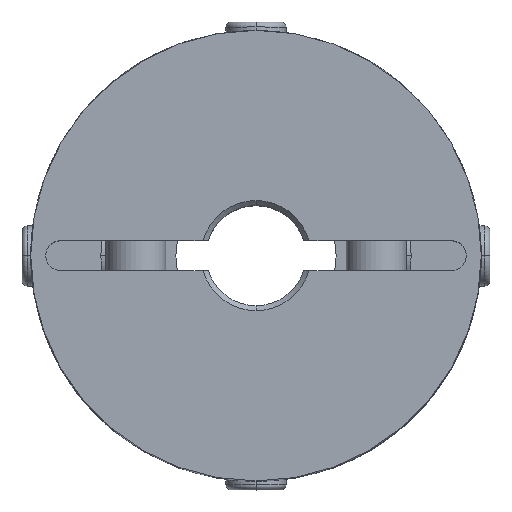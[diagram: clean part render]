
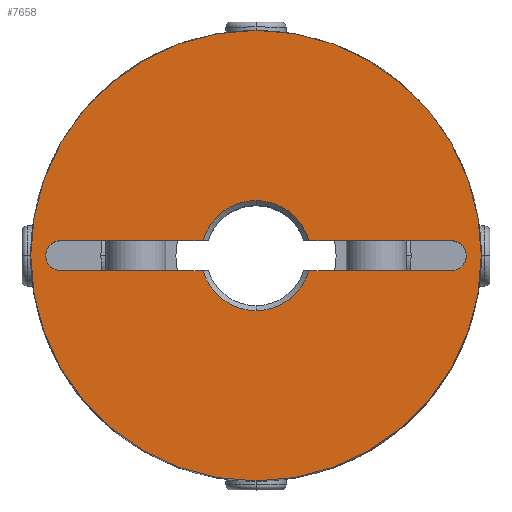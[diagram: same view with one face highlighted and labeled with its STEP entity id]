
A CAD part, top view. The second image highlights one B-rep face of the part: STEP entity #7658.
In plain terms, the highlighted planar face has unit normal (0, 0, 1).
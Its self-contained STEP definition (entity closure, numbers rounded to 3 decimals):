
#979=CARTESIAN_POINT('',(0.,22.5,22.5));
#980=VERTEX_POINT('',#979);
#987=CARTESIAN_POINT('',(0.,-22.5,22.5));
#988=VERTEX_POINT('',#987);
#989=CARTESIAN_POINT('',(0.0,0.0,22.5));
#990=DIRECTION('',(0.0,0.0,-1.0));
#991=DIRECTION('',(0.0,-1.0,0.0));
#992=AXIS2_PLACEMENT_3D('',#989,#990,#991);
#993=CIRCLE('',#992,22.5);
#994=EDGE_CURVE('',#980,#988,#993,.T.);
#1309=CARTESIAN_POINT('',(20.561,1.061,22.5));
#1310=VERTEX_POINT('',#1309);
#1326=CARTESIAN_POINT('',(19.5,-1.5,22.5));
#1327=VERTEX_POINT('',#1326);
#1334=CARTESIAN_POINT('',(19.5,0.,22.5));
#1335=DIRECTION('',(0.0,0.0,1.0));
#1336=DIRECTION('',(0.707,-0.707,0.0));
#1337=AXIS2_PLACEMENT_3D('',#1334,#1335,#1336);
#1338=CIRCLE('',#1337,1.5);
#1339=EDGE_CURVE('',#1327,#1310,#1338,.T.);
#1351=CARTESIAN_POINT('',(-20.561,-1.061,22.5));
#1352=VERTEX_POINT('',#1351);
#1368=CARTESIAN_POINT('',(-19.5,1.5,22.5));
#1369=VERTEX_POINT('',#1368);
#1376=CARTESIAN_POINT('',(-19.5,0.,22.5));
#1377=DIRECTION('',(0.0,0.0,1.0));
#1378=DIRECTION('',(-0.707,0.707,0.0));
#1379=AXIS2_PLACEMENT_3D('',#1376,#1377,#1378);
#1380=CIRCLE('',#1379,1.5);
#1381=EDGE_CURVE('',#1369,#1352,#1380,.T.);
#2105=CARTESIAN_POINT('',(0.,5.5,22.5));
#2106=VERTEX_POINT('',#2105);
#2114=CARTESIAN_POINT('',(5.292,1.5,22.5));
#2115=VERTEX_POINT('',#2114);
#2129=CARTESIAN_POINT('',(0.0,0.0,22.5));
#2130=DIRECTION('',(0.0,0.0,1.0));
#2131=DIRECTION('',(0.0,1.0,0.0));
#2132=AXIS2_PLACEMENT_3D('',#2129,#2130,#2131);
#2133=CIRCLE('',#2132,5.5);
#2134=EDGE_CURVE('',#2115,#2106,#2133,.T.);
#2144=CARTESIAN_POINT('',(0.,-5.5,22.5));
#2145=VERTEX_POINT('',#2144);
#2161=CARTESIAN_POINT('',(-5.292,-1.5,22.5));
#2162=VERTEX_POINT('',#2161);
#2176=CARTESIAN_POINT('',(0.0,0.0,22.5));
#2177=DIRECTION('',(0.0,0.0,1.0));
#2178=DIRECTION('',(0.0,-1.0,0.0));
#2179=AXIS2_PLACEMENT_3D('',#2176,#2177,#2178);
#2180=CIRCLE('',#2179,5.5);
#2181=EDGE_CURVE('',#2162,#2145,#2180,.T.);
#7396=CARTESIAN_POINT('',(19.5,1.5,22.5));
#7397=VERTEX_POINT('',#7396);
#7404=CARTESIAN_POINT('',(5.292,1.5,22.5));
#7405=DIRECTION('',(1.0,0.0,0.0));
#7406=VECTOR('',#7405,14.208);
#7407=LINE('',#7404,#7406);
#7408=EDGE_CURVE('',#2115,#7397,#7407,.T.);
#7543=CARTESIAN_POINT('',(5.292,-1.5,22.5));
#7544=VERTEX_POINT('',#7543);
#7558=CARTESIAN_POINT('',(19.5,-1.5,22.5));
#7559=DIRECTION('',(-1.0,0.0,0.0));
#7560=VECTOR('',#7559,14.208);
#7561=LINE('',#7558,#7560);
#7562=EDGE_CURVE('',#1327,#7544,#7561,.T.);
#7585=CARTESIAN_POINT('',(0.0,0.0,22.5));
#7586=DIRECTION('',(0.0,0.0,1.0));
#7587=DIRECTION('',(0.0,-1.0,0.0));
#7588=AXIS2_PLACEMENT_3D('',#7585,#7586,#7587);
#7589=CIRCLE('',#7588,5.5);
#7590=EDGE_CURVE('',#2145,#7544,#7589,.T.);
#7597=CARTESIAN_POINT('',(0.,-2.045,22.5));
#7598=DIRECTION('',(0.0,0.0,1.0));
#7599=DIRECTION('',(0.0,-1.0,0.0));
#7600=AXIS2_PLACEMENT_3D('',#7597,#7598,#7599);
#7601=PLANE('',#7600);
#7602=CARTESIAN_POINT('',(0.0,0.0,22.5));
#7603=DIRECTION('',(0.0,0.0,-1.0));
#7604=DIRECTION('',(0.0,-1.0,0.0));
#7605=AXIS2_PLACEMENT_3D('',#7602,#7603,#7604);
#7606=CIRCLE('',#7605,22.5);
#7607=EDGE_CURVE('',#988,#980,#7606,.T.);
#7608=ORIENTED_EDGE('',*,*,#7607,.F.);
#7609=ORIENTED_EDGE('',*,*,#994,.F.);
#7610=EDGE_LOOP('',(#7608,#7609));
#7611=FACE_OUTER_BOUND('',#7610,.T.);
#7612=ORIENTED_EDGE('',*,*,#2181,.F.);
#7613=CARTESIAN_POINT('',(-19.5,-1.5,22.5));
#7614=VERTEX_POINT('',#7613);
#7615=CARTESIAN_POINT('',(-5.292,-1.5,22.5));
#7616=DIRECTION('',(-1.0,0.0,0.0));
#7617=VECTOR('',#7616,14.208);
#7618=LINE('',#7615,#7617);
#7619=EDGE_CURVE('',#2162,#7614,#7618,.T.);
#7620=ORIENTED_EDGE('',*,*,#7619,.T.);
#7621=CARTESIAN_POINT('',(-19.5,0.,22.5));
#7622=DIRECTION('',(0.0,0.0,1.0));
#7623=DIRECTION('',(-0.707,0.707,0.0));
#7624=AXIS2_PLACEMENT_3D('',#7621,#7622,#7623);
#7625=CIRCLE('',#7624,1.5);
#7626=EDGE_CURVE('',#1352,#7614,#7625,.T.);
#7627=ORIENTED_EDGE('',*,*,#7626,.F.);
#7628=ORIENTED_EDGE('',*,*,#1381,.F.);
#7629=CARTESIAN_POINT('',(-5.292,1.5,22.5));
#7630=VERTEX_POINT('',#7629);
#7631=CARTESIAN_POINT('',(-19.5,1.5,22.5));
#7632=DIRECTION('',(1.0,0.0,0.0));
#7633=VECTOR('',#7632,14.208);
#7634=LINE('',#7631,#7633);
#7635=EDGE_CURVE('',#1369,#7630,#7634,.T.);
#7636=ORIENTED_EDGE('',*,*,#7635,.T.);
#7637=CARTESIAN_POINT('',(0.0,0.0,22.5));
#7638=DIRECTION('',(0.0,0.0,1.0));
#7639=DIRECTION('',(0.0,1.0,0.0));
#7640=AXIS2_PLACEMENT_3D('',#7637,#7638,#7639);
#7641=CIRCLE('',#7640,5.5);
#7642=EDGE_CURVE('',#2106,#7630,#7641,.T.);
#7643=ORIENTED_EDGE('',*,*,#7642,.F.);
#7644=ORIENTED_EDGE('',*,*,#2134,.F.);
#7645=ORIENTED_EDGE('',*,*,#7408,.T.);
#7646=CARTESIAN_POINT('',(19.5,0.,22.5));
#7647=DIRECTION('',(0.0,0.0,1.0));
#7648=DIRECTION('',(0.707,-0.707,0.0));
#7649=AXIS2_PLACEMENT_3D('',#7646,#7647,#7648);
#7650=CIRCLE('',#7649,1.5);
#7651=EDGE_CURVE('',#1310,#7397,#7650,.T.);
#7652=ORIENTED_EDGE('',*,*,#7651,.F.);
#7653=ORIENTED_EDGE('',*,*,#1339,.F.);
#7654=ORIENTED_EDGE('',*,*,#7562,.T.);
#7655=ORIENTED_EDGE('',*,*,#7590,.F.);
#7656=EDGE_LOOP('',(#7612,#7620,#7627,#7628,#7636,#7643,#7644,#7645,#7652,#7653,#7654,#7655));
#7657=FACE_BOUND('',#7656,.T.);
#7658=ADVANCED_FACE('',(#7611,#7657),#7601,.T.);
